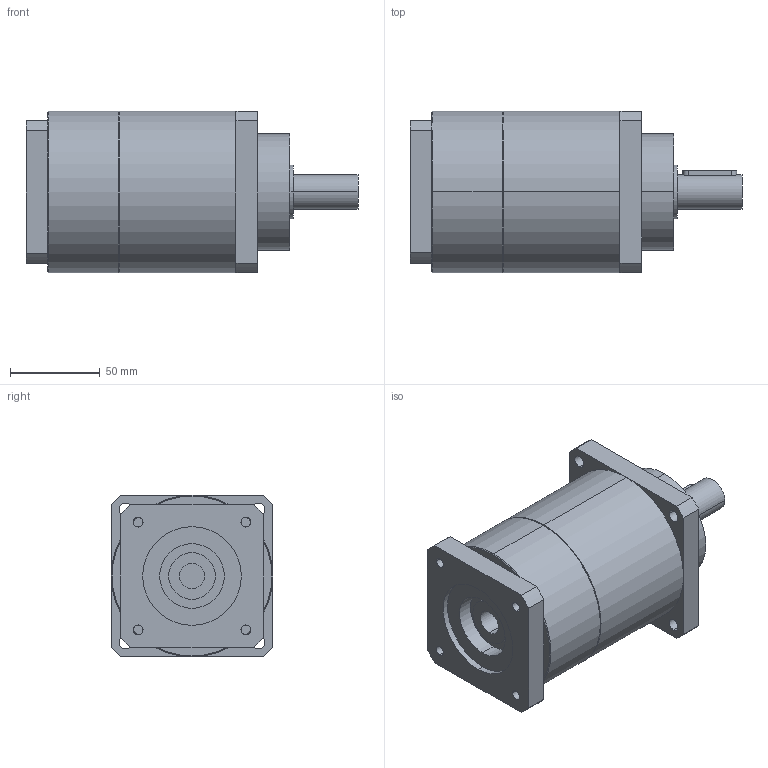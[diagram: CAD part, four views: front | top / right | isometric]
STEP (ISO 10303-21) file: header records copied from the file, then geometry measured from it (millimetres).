
FILE_DESCRIPTION(('CoCreate Modeling STEP Export'),'2;1');
FILE_NAME('GPT90_ig-9-12-16-20-25-28-35-40-50-70-100_19_B5T_14_P20.stp','2015-02-04T11:29:20',(''),(''),'CoCreate Modeling STEP processor for AP214 (Solid Model)','CoCreate Modeling 16.00C 25-Feb-2009 (C) Parametric Technology GmbH','');
FILE_SCHEMA(('AUTOMOTIVE_DESIGN { 1 0 10303 214 1 1 1 1 }'));
Length unit declared in the file: millimetre
Products named in the file (2): GPT90_ig-9-12-16-20-25-28-35-40-50-70-100_19_B5T_14_P20
Assembly tree (1 placements, depth 2):
  GPT90_ig-9-12-16-20-25-28-35-40-50-70-100_19_B5T_14_P20
    GPT90_ig-9-12-16-20-25-28-35-40-50-70-100_19_B5T_14_P20
Bounding box: 185 x 90 x 90 mm (x, y, z)
Volume: 888050 mm3; surface area: 66323.3 mm2
Topology: 1 solids, 1 shells, 88 faces, 237 edges, 156 vertices
Faces by surface type: cylinder 46, plane 38, cone 4
Entity records: 2783 total; most frequent: CARTESIAN_POINT 766, ORIENTED_EDGE 474, DIRECTION 338, EDGE_CURVE 237, VERTEX_POINT 156, AXIS2_PLACEMENT_3D 125, EDGE_LOOP 109, VECTOR 88
